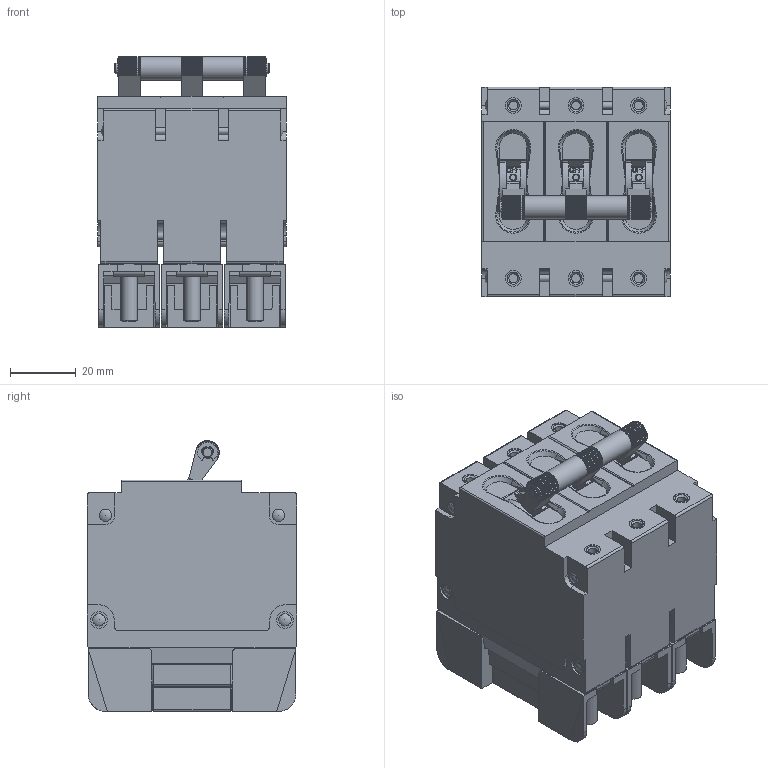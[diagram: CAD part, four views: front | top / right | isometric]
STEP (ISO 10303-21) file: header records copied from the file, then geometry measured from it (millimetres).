
FILE_DESCRIPTION(/* description */ (''),/* implementation_level */ '2;1');
FILE_NAME(/* name */ 'I:\TI\Bibliotheek\Inventor\Panelen\Circuit breaker\Overige\cr3-with-auxiliary-switch-cover-and-shrouds-on-terminals-pole-auxiliary-contact.stp',/* time_stamp */ '2023-01-11T10:40:17+01:00',/* author */ ('NBinnendijk'),/* organization */ (''),/* preprocessor_version */ 'ST-DEVELOPER v18.1',/* originating_system */ 'Autodesk Inventor 2022',/* authorisation */ '');
FILE_SCHEMA (('AUTOMOTIVE_DESIGN { 1 0 10303 214 3 1 1 }'));
Products named in the file (1): cr3-with-auxiliary-switch-cover-and-shrouds-on-terminals-pole-auxilia
ry-contact
Bounding box: 57.15 x 63.5 x 82.12 mm (x, y, z)
Volume: 195085.5 mm3; surface area: 49514.7 mm2
Topology: 5 solids, 6 shells, 1884 faces, 5210 edges, 3411 vertices
Faces by surface type: plane 1286, cylinder 520, cone 32, bspline 18, sphere 16, torus 12
Full cylindrical faces by diameter (mm): 1.321 x3, 1.651 x3, 2.032 x3, 2.21 x4, 2.337 x6, 2.413 x3, 2.54 x6, 2.692 x6, 3.175 x5, 3.2 x3, 4.826 x6, 5 x6, 5.08 x12, 5.334 x6, 6.502 x6, 7.112 x1
Entity records: 64721 total; most frequent: CARTESIAN_POINT 13239, DIRECTION 10550, ORIENTED_EDGE 10404, EDGE_CURVE 5202, AXIS2_PLACEMENT_3D 3647, VERTEX_POINT 3410, LINE 3256, VECTOR 3256
